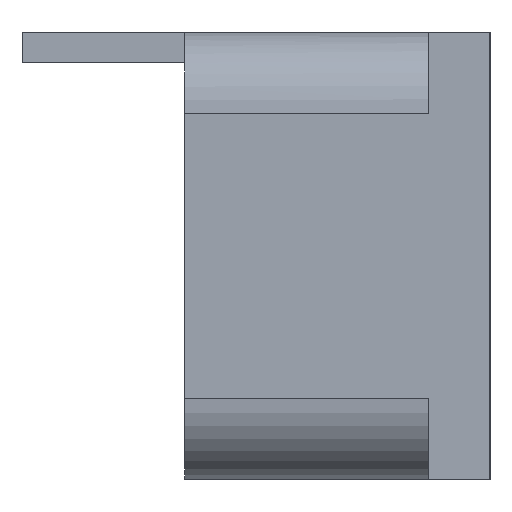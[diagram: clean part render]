
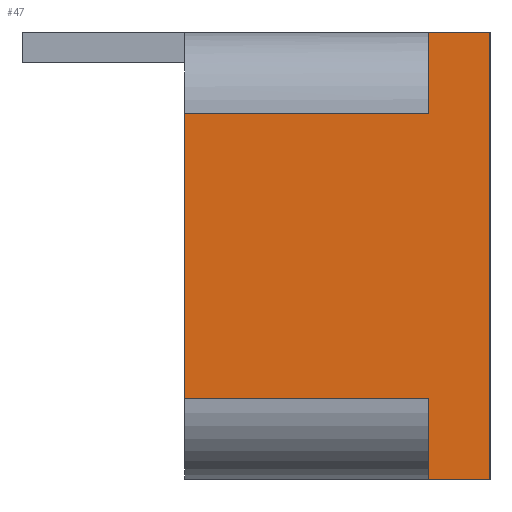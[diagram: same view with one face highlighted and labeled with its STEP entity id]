
A CAD part, left-side view. The second image highlights one B-rep face of the part: STEP entity #47.
In plain terms, the highlighted planar face has unit normal (-1, 0, 0).
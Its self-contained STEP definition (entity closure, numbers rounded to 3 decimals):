
#47 = ADVANCED_FACE('',(#48),#62,.F.);
#48 = FACE_BOUND('',#49,.F.);
#49 = EDGE_LOOP('',(#50,#85,#113,#141,#169,#197,#225,#253));
#50 = ORIENTED_EDGE('',*,*,#51,.T.);
#51 = EDGE_CURVE('',#52,#54,#56,.T.);
#52 = VERTEX_POINT('',#53);
#53 = CARTESIAN_POINT('',(-66.,-24.,-14.));
#54 = VERTEX_POINT('',#55);
#55 = CARTESIAN_POINT('',(-66.,0.,-14.));
#56 = SURFACE_CURVE('',#57,(#61,#73),.PCURVE_S1.);
#57 = LINE('',#58,#59);
#58 = CARTESIAN_POINT('',(-66.,-24.,-14.));
#59 = VECTOR('',#60,1.);
#60 = DIRECTION('',(0.,1.,0.));
#61 = PCURVE('',#62,#67);
#62 = PLANE('',#63);
#63 = AXIS2_PLACEMENT_3D('',#64,#65,#66);
#64 = CARTESIAN_POINT('',(-66.,-24.,-22.));
#65 = DIRECTION('',(1.,0.,0.));
#66 = DIRECTION('',(0.,0.,1.));
#67 = DEFINITIONAL_REPRESENTATION('',(#68),#72);
#68 = LINE('',#69,#70);
#69 = CARTESIAN_POINT('',(8.,0.));
#70 = VECTOR('',#71,1.);
#71 = DIRECTION('',(0.,-1.));
#72 = ( GEOMETRIC_REPRESENTATION_CONTEXT(2) 
PARAMETRIC_REPRESENTATION_CONTEXT() REPRESENTATION_CONTEXT('2D SPACE',''
  ) );
#73 = PCURVE('',#74,#79);
#74 = CYLINDRICAL_SURFACE('',#75,8.);
#75 = AXIS2_PLACEMENT_3D('',#76,#77,#78);
#76 = CARTESIAN_POINT('',(-58.,-24.,-14.));
#77 = DIRECTION('',(0.,1.,0.));
#78 = DIRECTION('',(-1.,0.,0.));
#79 = DEFINITIONAL_REPRESENTATION('',(#80),#84);
#80 = LINE('',#81,#82);
#81 = CARTESIAN_POINT('',(-0.,0.));
#82 = VECTOR('',#83,1.);
#83 = DIRECTION('',(-0.,1.));
#84 = ( GEOMETRIC_REPRESENTATION_CONTEXT(2) 
PARAMETRIC_REPRESENTATION_CONTEXT() REPRESENTATION_CONTEXT('2D SPACE',''
  ) );
#85 = ORIENTED_EDGE('',*,*,#86,.T.);
#86 = EDGE_CURVE('',#54,#87,#89,.T.);
#87 = VERTEX_POINT('',#88);
#88 = CARTESIAN_POINT('',(-66.,0.,14.));
#89 = SURFACE_CURVE('',#90,(#94,#101),.PCURVE_S1.);
#90 = LINE('',#91,#92);
#91 = CARTESIAN_POINT('',(-66.,0.,-22.));
#92 = VECTOR('',#93,1.);
#93 = DIRECTION('',(0.,0.,1.));
#94 = PCURVE('',#62,#95);
#95 = DEFINITIONAL_REPRESENTATION('',(#96),#100);
#96 = LINE('',#97,#98);
#97 = CARTESIAN_POINT('',(0.,-24.));
#98 = VECTOR('',#99,1.);
#99 = DIRECTION('',(1.,0.));
#100 = ( GEOMETRIC_REPRESENTATION_CONTEXT(2) 
PARAMETRIC_REPRESENTATION_CONTEXT() REPRESENTATION_CONTEXT('2D SPACE',''
  ) );
#101 = PCURVE('',#102,#107);
#102 = PLANE('',#103);
#103 = AXIS2_PLACEMENT_3D('',#104,#105,#106);
#104 = CARTESIAN_POINT('',(-66.,0.,-22.));
#105 = DIRECTION('',(0.,1.,0.));
#106 = DIRECTION('',(0.,0.,1.));
#107 = DEFINITIONAL_REPRESENTATION('',(#108),#112);
#108 = LINE('',#109,#110);
#109 = CARTESIAN_POINT('',(0.,0.));
#110 = VECTOR('',#111,1.);
#111 = DIRECTION('',(1.,0.));
#112 = ( GEOMETRIC_REPRESENTATION_CONTEXT(2) 
PARAMETRIC_REPRESENTATION_CONTEXT() REPRESENTATION_CONTEXT('2D SPACE',''
  ) );
#113 = ORIENTED_EDGE('',*,*,#114,.F.);
#114 = EDGE_CURVE('',#115,#87,#117,.T.);
#115 = VERTEX_POINT('',#116);
#116 = CARTESIAN_POINT('',(-66.,-24.,14.));
#117 = SURFACE_CURVE('',#118,(#122,#129),.PCURVE_S1.);
#118 = LINE('',#119,#120);
#119 = CARTESIAN_POINT('',(-66.,-24.,14.));
#120 = VECTOR('',#121,1.);
#121 = DIRECTION('',(0.,1.,0.));
#122 = PCURVE('',#62,#123);
#123 = DEFINITIONAL_REPRESENTATION('',(#124),#128);
#124 = LINE('',#125,#126);
#125 = CARTESIAN_POINT('',(36.,0.));
#126 = VECTOR('',#127,1.);
#127 = DIRECTION('',(0.,-1.));
#128 = ( GEOMETRIC_REPRESENTATION_CONTEXT(2) 
PARAMETRIC_REPRESENTATION_CONTEXT() REPRESENTATION_CONTEXT('2D SPACE',''
  ) );
#129 = PCURVE('',#130,#135);
#130 = CYLINDRICAL_SURFACE('',#131,8.);
#131 = AXIS2_PLACEMENT_3D('',#132,#133,#134);
#132 = CARTESIAN_POINT('',(-58.,-24.,14.));
#133 = DIRECTION('',(0.,1.,0.));
#134 = DIRECTION('',(-1.,0.,0.));
#135 = DEFINITIONAL_REPRESENTATION('',(#136),#140);
#136 = LINE('',#137,#138);
#137 = CARTESIAN_POINT('',(0.,0.));
#138 = VECTOR('',#139,1.);
#139 = DIRECTION('',(0.,1.));
#140 = ( GEOMETRIC_REPRESENTATION_CONTEXT(2) 
PARAMETRIC_REPRESENTATION_CONTEXT() REPRESENTATION_CONTEXT('2D SPACE',''
  ) );
#141 = ORIENTED_EDGE('',*,*,#142,.T.);
#142 = EDGE_CURVE('',#115,#143,#145,.T.);
#143 = VERTEX_POINT('',#144);
#144 = CARTESIAN_POINT('',(-66.,-24.,22.));
#145 = SURFACE_CURVE('',#146,(#150,#157),.PCURVE_S1.);
#146 = LINE('',#147,#148);
#147 = CARTESIAN_POINT('',(-66.,-24.,-22.));
#148 = VECTOR('',#149,1.);
#149 = DIRECTION('',(0.,0.,1.));
#150 = PCURVE('',#62,#151);
#151 = DEFINITIONAL_REPRESENTATION('',(#152),#156);
#152 = LINE('',#153,#154);
#153 = CARTESIAN_POINT('',(0.,0.));
#154 = VECTOR('',#155,1.);
#155 = DIRECTION('',(1.,0.));
#156 = ( GEOMETRIC_REPRESENTATION_CONTEXT(2) 
PARAMETRIC_REPRESENTATION_CONTEXT() REPRESENTATION_CONTEXT('2D SPACE',''
  ) );
#157 = PCURVE('',#158,#163);
#158 = PLANE('',#159);
#159 = AXIS2_PLACEMENT_3D('',#160,#161,#162);
#160 = CARTESIAN_POINT('',(-66.,-24.,-22.));
#161 = DIRECTION('',(0.,1.,0.));
#162 = DIRECTION('',(0.,0.,1.));
#163 = DEFINITIONAL_REPRESENTATION('',(#164),#168);
#164 = LINE('',#165,#166);
#165 = CARTESIAN_POINT('',(0.,0.));
#166 = VECTOR('',#167,1.);
#167 = DIRECTION('',(1.,0.));
#168 = ( GEOMETRIC_REPRESENTATION_CONTEXT(2) 
PARAMETRIC_REPRESENTATION_CONTEXT() REPRESENTATION_CONTEXT('2D SPACE',''
  ) );
#169 = ORIENTED_EDGE('',*,*,#170,.F.);
#170 = EDGE_CURVE('',#171,#143,#173,.T.);
#171 = VERTEX_POINT('',#172);
#172 = CARTESIAN_POINT('',(-66.,-30.,22.));
#173 = SURFACE_CURVE('',#174,(#178,#185),.PCURVE_S1.);
#174 = LINE('',#175,#176);
#175 = CARTESIAN_POINT('',(-66.,-30.,22.));
#176 = VECTOR('',#177,1.);
#177 = DIRECTION('',(0.,1.,0.));
#178 = PCURVE('',#62,#179);
#179 = DEFINITIONAL_REPRESENTATION('',(#180),#184);
#180 = LINE('',#181,#182);
#181 = CARTESIAN_POINT('',(44.,6.));
#182 = VECTOR('',#183,1.);
#183 = DIRECTION('',(0.,-1.));
#184 = ( GEOMETRIC_REPRESENTATION_CONTEXT(2) 
PARAMETRIC_REPRESENTATION_CONTEXT() REPRESENTATION_CONTEXT('2D SPACE',''
  ) );
#185 = PCURVE('',#186,#191);
#186 = PLANE('',#187);
#187 = AXIS2_PLACEMENT_3D('',#188,#189,#190);
#188 = CARTESIAN_POINT('',(-66.,-30.,22.));
#189 = DIRECTION('',(0.,0.,1.));
#190 = DIRECTION('',(1.,0.,0.));
#191 = DEFINITIONAL_REPRESENTATION('',(#192),#196);
#192 = LINE('',#193,#194);
#193 = CARTESIAN_POINT('',(0.,0.));
#194 = VECTOR('',#195,1.);
#195 = DIRECTION('',(0.,1.));
#196 = ( GEOMETRIC_REPRESENTATION_CONTEXT(2) 
PARAMETRIC_REPRESENTATION_CONTEXT() REPRESENTATION_CONTEXT('2D SPACE',''
  ) );
#197 = ORIENTED_EDGE('',*,*,#198,.F.);
#198 = EDGE_CURVE('',#199,#171,#201,.T.);
#199 = VERTEX_POINT('',#200);
#200 = CARTESIAN_POINT('',(-66.,-30.,-22.));
#201 = SURFACE_CURVE('',#202,(#206,#213),.PCURVE_S1.);
#202 = LINE('',#203,#204);
#203 = CARTESIAN_POINT('',(-66.,-30.,-22.));
#204 = VECTOR('',#205,1.);
#205 = DIRECTION('',(0.,0.,1.));
#206 = PCURVE('',#62,#207);
#207 = DEFINITIONAL_REPRESENTATION('',(#208),#212);
#208 = LINE('',#209,#210);
#209 = CARTESIAN_POINT('',(0.,6.));
#210 = VECTOR('',#211,1.);
#211 = DIRECTION('',(1.,0.));
#212 = ( GEOMETRIC_REPRESENTATION_CONTEXT(2) 
PARAMETRIC_REPRESENTATION_CONTEXT() REPRESENTATION_CONTEXT('2D SPACE',''
  ) );
#213 = PCURVE('',#214,#219);
#214 = PLANE('',#215);
#215 = AXIS2_PLACEMENT_3D('',#216,#217,#218);
#216 = CARTESIAN_POINT('',(-66.,-30.,-22.));
#217 = DIRECTION('',(0.,1.,0.));
#218 = DIRECTION('',(0.,0.,1.));
#219 = DEFINITIONAL_REPRESENTATION('',(#220),#224);
#220 = LINE('',#221,#222);
#221 = CARTESIAN_POINT('',(0.,0.));
#222 = VECTOR('',#223,1.);
#223 = DIRECTION('',(1.,0.));
#224 = ( GEOMETRIC_REPRESENTATION_CONTEXT(2) 
PARAMETRIC_REPRESENTATION_CONTEXT() REPRESENTATION_CONTEXT('2D SPACE',''
  ) );
#225 = ORIENTED_EDGE('',*,*,#226,.T.);
#226 = EDGE_CURVE('',#199,#227,#229,.T.);
#227 = VERTEX_POINT('',#228);
#228 = CARTESIAN_POINT('',(-66.,-24.,-22.));
#229 = SURFACE_CURVE('',#230,(#234,#241),.PCURVE_S1.);
#230 = LINE('',#231,#232);
#231 = CARTESIAN_POINT('',(-66.,-30.,-22.));
#232 = VECTOR('',#233,1.);
#233 = DIRECTION('',(0.,1.,0.));
#234 = PCURVE('',#62,#235);
#235 = DEFINITIONAL_REPRESENTATION('',(#236),#240);
#236 = LINE('',#237,#238);
#237 = CARTESIAN_POINT('',(0.,6.));
#238 = VECTOR('',#239,1.);
#239 = DIRECTION('',(0.,-1.));
#240 = ( GEOMETRIC_REPRESENTATION_CONTEXT(2) 
PARAMETRIC_REPRESENTATION_CONTEXT() REPRESENTATION_CONTEXT('2D SPACE',''
  ) );
#241 = PCURVE('',#242,#247);
#242 = PLANE('',#243);
#243 = AXIS2_PLACEMENT_3D('',#244,#245,#246);
#244 = CARTESIAN_POINT('',(-66.,-30.,-22.));
#245 = DIRECTION('',(0.,0.,1.));
#246 = DIRECTION('',(1.,0.,0.));
#247 = DEFINITIONAL_REPRESENTATION('',(#248),#252);
#248 = LINE('',#249,#250);
#249 = CARTESIAN_POINT('',(0.,0.));
#250 = VECTOR('',#251,1.);
#251 = DIRECTION('',(0.,1.));
#252 = ( GEOMETRIC_REPRESENTATION_CONTEXT(2) 
PARAMETRIC_REPRESENTATION_CONTEXT() REPRESENTATION_CONTEXT('2D SPACE',''
  ) );
#253 = ORIENTED_EDGE('',*,*,#254,.T.);
#254 = EDGE_CURVE('',#227,#52,#255,.T.);
#255 = SURFACE_CURVE('',#256,(#260,#267),.PCURVE_S1.);
#256 = LINE('',#257,#258);
#257 = CARTESIAN_POINT('',(-66.,-24.,-22.));
#258 = VECTOR('',#259,1.);
#259 = DIRECTION('',(0.,0.,1.));
#260 = PCURVE('',#62,#261);
#261 = DEFINITIONAL_REPRESENTATION('',(#262),#266);
#262 = LINE('',#263,#264);
#263 = CARTESIAN_POINT('',(0.,0.));
#264 = VECTOR('',#265,1.);
#265 = DIRECTION('',(1.,0.));
#266 = ( GEOMETRIC_REPRESENTATION_CONTEXT(2) 
PARAMETRIC_REPRESENTATION_CONTEXT() REPRESENTATION_CONTEXT('2D SPACE',''
  ) );
#267 = PCURVE('',#268,#273);
#268 = PLANE('',#269);
#269 = AXIS2_PLACEMENT_3D('',#270,#271,#272);
#270 = CARTESIAN_POINT('',(-66.,-24.,-22.));
#271 = DIRECTION('',(0.,1.,0.));
#272 = DIRECTION('',(0.,0.,1.));
#273 = DEFINITIONAL_REPRESENTATION('',(#274),#278);
#274 = LINE('',#275,#276);
#275 = CARTESIAN_POINT('',(0.,0.));
#276 = VECTOR('',#277,1.);
#277 = DIRECTION('',(1.,0.));
#278 = ( GEOMETRIC_REPRESENTATION_CONTEXT(2) 
PARAMETRIC_REPRESENTATION_CONTEXT() REPRESENTATION_CONTEXT('2D SPACE',''
  ) );
